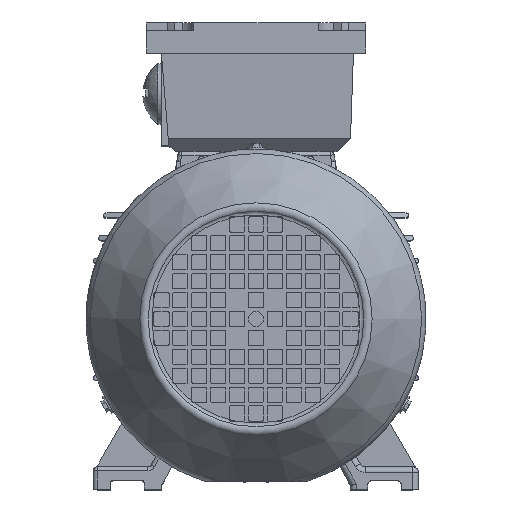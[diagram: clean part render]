
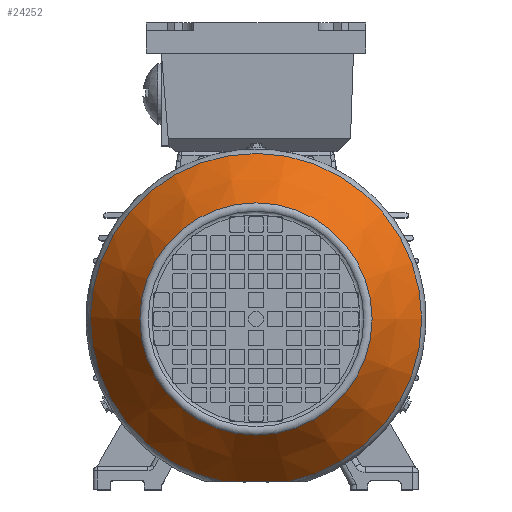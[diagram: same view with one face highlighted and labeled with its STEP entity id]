
A CAD part, top view. The second image highlights one B-rep face of the part: STEP entity #24252.
In plain terms, the highlighted conical face has half-angle 35 degrees and reference radius 87.649 mm.
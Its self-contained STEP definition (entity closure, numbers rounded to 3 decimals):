
#106=(
BOUNDED_CURVE()
B_SPLINE_CURVE(2,(#35670,#35671,#35672),.UNSPECIFIED.,.F.,.F.)
B_SPLINE_CURVE_WITH_KNOTS((3,3),(6.234,10.645),
 .UNSPECIFIED.)
CURVE()
GEOMETRIC_REPRESENTATION_ITEM()
RATIONAL_B_SPLINE_CURVE((1.15,1.173,1.15))
REPRESENTATION_ITEM('')
);
#1364=CONICAL_SURFACE('',#25801,87.649,0.611);
#1455=FACE_OUTER_BOUND('',#2888,.T.);
#2888=EDGE_LOOP('',(#16484,#16485,#16486,#16487,#16488,#16489));
#4423=LINE('',#35674,#6734);
#6734=VECTOR('',#28443,87.649);
#9112=CIRCLE('',#25799,61.457);
#9114=CIRCLE('',#25802,87.649);
#9115=CIRCLE('',#25803,87.649);
#10169=VERTEX_POINT('',#35662);
#10170=VERTEX_POINT('',#35666);
#10171=VERTEX_POINT('',#35667);
#10172=VERTEX_POINT('',#35669);
#12654=EDGE_CURVE('',#10169,#10169,#9112,.T.);
#12656=EDGE_CURVE('',#10170,#10171,#9114,.T.);
#12657=EDGE_CURVE('',#10172,#10170,#106,.T.);
#12658=EDGE_CURVE('',#10171,#10172,#9115,.T.);
#12659=EDGE_CURVE('',#10171,#10169,#4423,.T.);
#16484=ORIENTED_EDGE('',*,*,#12656,.F.);
#16485=ORIENTED_EDGE('',*,*,#12657,.F.);
#16486=ORIENTED_EDGE('',*,*,#12658,.F.);
#16487=ORIENTED_EDGE('',*,*,#12659,.T.);
#16488=ORIENTED_EDGE('',*,*,#12654,.T.);
#16489=ORIENTED_EDGE('',*,*,#12659,.F.);
#24252=ADVANCED_FACE('',(#1455),#1364,.T.);
#25799=AXIS2_PLACEMENT_3D('',#35663,#28433,#28434);
#25801=AXIS2_PLACEMENT_3D('',#35665,#28437,#28438);
#25802=AXIS2_PLACEMENT_3D('',#35668,#28439,#28440);
#25803=AXIS2_PLACEMENT_3D('',#35673,#28441,#28442);
#28433=DIRECTION('center_axis',(0.,0.,-1.));
#28434=DIRECTION('ref_axis',(-1.,0.,0.));
#28437=DIRECTION('center_axis',(0.,0.,-1.));
#28438=DIRECTION('ref_axis',(-1.,0.,0.));
#28439=DIRECTION('center_axis',(0.,0.,-1.));
#28440=DIRECTION('ref_axis',(-1.,0.,0.));
#28441=DIRECTION('center_axis',(0.,0.,-1.));
#28442=DIRECTION('ref_axis',(-1.,0.,0.));
#28443=DIRECTION('',(-0.574,0.,0.819));
#35662=CARTESIAN_POINT('',(61.457,0.,185.721));
#35663=CARTESIAN_POINT('Origin',(0.,0.,185.721));
#35665=CARTESIAN_POINT('Origin',(0.,0.,148.315));
#35666=CARTESIAN_POINT('',(-16.922,-86.,148.315));
#35667=CARTESIAN_POINT('',(87.649,0.,148.315));
#35668=CARTESIAN_POINT('Origin',(0.,0.,148.315));
#35669=CARTESIAN_POINT('',(16.922,-86.,148.315));
#35670=CARTESIAN_POINT('Ctrl Pts',(16.922,-86.,148.315));
#35671=CARTESIAN_POINT('Ctrl Pts',(0.,-86.,152.981));
#35672=CARTESIAN_POINT('Ctrl Pts',(-16.922,-86.,148.315));
#35673=CARTESIAN_POINT('Origin',(0.,0.,148.315));
#35674=CARTESIAN_POINT('',(87.649,0.,148.315));
